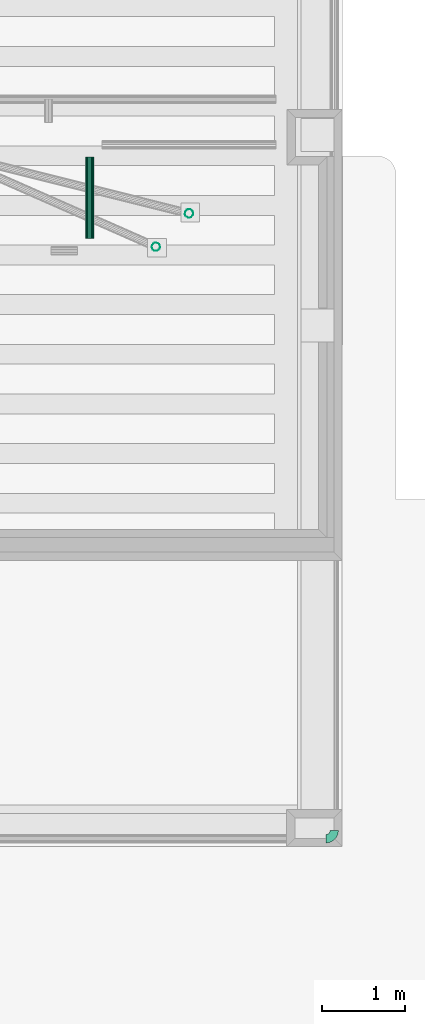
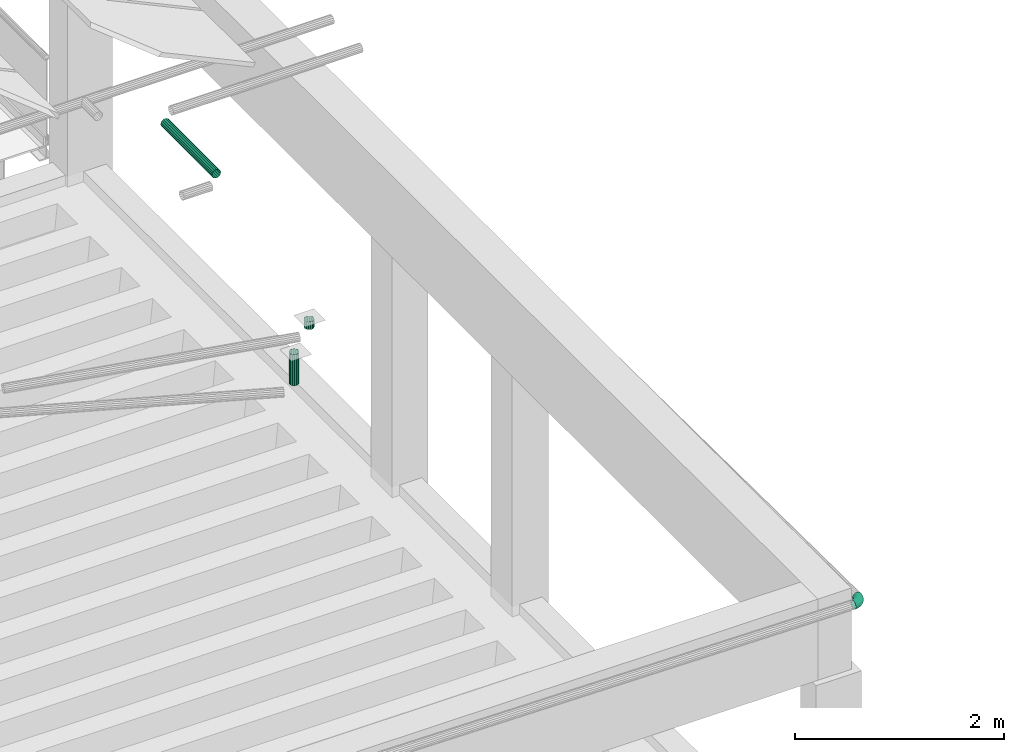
# One storey, part 95 of 108: 3 flow segments, 1 flow fitting.
"""IFC2X3 building model written with IfcOpenShell, lengths in metres."""

from ifc_helpers import new_model, entity, si_unit, converted_unit, derived_unit, money_unit, direction, frame, origin_with_axes, place, context, subcontext, project, spatial, open_shell, faceted_brep, surface_model, material, type_object, element, save


model = new_model("IFC2X3")

# Units and contexts
model_context = context("Model", 3, precision=1e-05, world=origin_with_axes(), true_north=direction((0.0, 1.0)))
body_context = subcontext(model_context, "Body", "Model", "MODEL_VIEW", scale=1.0)
ifc_project = project(units=[si_unit("LENGTHUNIT", "METRE"), si_unit("AREAUNIT", "SQUARE_METRE"), si_unit("VOLUMEUNIT", "CUBIC_METRE"), si_unit("ABSORBEDDOSEUNIT", "GRAY"), si_unit("AMOUNTOFSUBSTANCEUNIT", "MOLE"), si_unit("DOSEEQUIVALENTUNIT", "SIEVERT"), si_unit("ELECTRICCAPACITANCEUNIT", "FARAD"), si_unit("ELECTRICCHARGEUNIT", "COULOMB"), si_unit("ELECTRICCONDUCTANCEUNIT", "SIEMENS"), si_unit("ELECTRICCURRENTUNIT", "AMPERE"), si_unit("ELECTRICRESISTANCEUNIT", "OHM"), si_unit("ELECTRICVOLTAGEUNIT", "VOLT"), si_unit("ENERGYUNIT", "JOULE"), si_unit("FORCEUNIT", "NEWTON"), si_unit("FREQUENCYUNIT", "HERTZ"), si_unit("ILLUMINANCEUNIT", "LUX"), si_unit("INDUCTANCEUNIT", "HENRY"), si_unit("LUMINOUSFLUXUNIT", "LUMEN"), si_unit("LUMINOUSINTENSITYUNIT", "CANDELA"), si_unit("MAGNETICFLUXDENSITYUNIT", "TESLA"), si_unit("MAGNETICFLUXUNIT", "WEBER"), si_unit("MASSUNIT", "GRAM"), converted_unit("PLANEANGLEUNIT", "degree", entity("IfcReal", 0.0174532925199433), si_unit("PLANEANGLEUNIT", "RADIAN"), dimensions=[0, 0, 0, 0, 0, 0, 0]), si_unit("POWERUNIT", "WATT"), si_unit("PRESSUREUNIT", "PASCAL"), si_unit("RADIOACTIVITYUNIT", "BECQUEREL"), si_unit("SOLIDANGLEUNIT", "STERADIAN"), si_unit("THERMODYNAMICTEMPERATUREUNIT", "KELVIN"), si_unit("TIMEUNIT", "SECOND"), derived_unit("ACCELERATIONUNIT", [(si_unit("LENGTHUNIT", "METRE"), 1), (si_unit("TIMEUNIT", "SECOND"), -2)]), derived_unit("ANGULARVELOCITYUNIT", [(converted_unit("PLANEANGLEUNIT", "degree", entity("IfcReal", 0.0174532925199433), si_unit("PLANEANGLEUNIT", "RADIAN"), dimensions=[0, 0, 0, 0, 0, 0, 0]), 1), (si_unit("TIMEUNIT", "SECOND"), -1)]), derived_unit("CURVATUREUNIT", [(converted_unit("PLANEANGLEUNIT", "degree", entity("IfcReal", 0.0174532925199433), si_unit("PLANEANGLEUNIT", "RADIAN"), dimensions=[0, 0, 0, 0, 0, 0, 0]), 1), (si_unit("LENGTHUNIT", "METRE"), -1)]), derived_unit("DYNAMICVISCOSITYUNIT", [(si_unit("PRESSUREUNIT", "PASCAL"), 1), (si_unit("TIMEUNIT", "SECOND"), 1)]), derived_unit("HEATFLUXDENSITYUNIT", [(si_unit("POWERUNIT", "WATT"), 1), (si_unit("LENGTHUNIT", "METRE"), -2)]), derived_unit("HEATINGVALUEUNIT", [(si_unit("ENERGYUNIT", "JOULE"), 1), (si_unit("MASSUNIT", "GRAM"), -1)]), derived_unit("INTEGERCOUNTRATEUNIT", [(si_unit("TIMEUNIT", "SECOND"), -1)]), derived_unit("IONCONCENTRATIONUNIT", [(si_unit("MASSUNIT", "GRAM"), 1), (si_unit("VOLUMEUNIT", "CUBIC_METRE"), -1)]), derived_unit("ISOTHERMALMOISTURECAPACITYUNIT", [(si_unit("VOLUMEUNIT", "CUBIC_METRE"), 1), (si_unit("MASSUNIT", "GRAM"), -1)]), derived_unit("KINEMATICVISCOSITYUNIT", [(si_unit("AREAUNIT", "SQUARE_METRE"), 1), (si_unit("TIMEUNIT", "SECOND"), -1)]), derived_unit("LINEARFORCEUNIT", [(si_unit("FORCEUNIT", "NEWTON"), 1), (si_unit("LENGTHUNIT", "METRE"), -1)]), derived_unit("LINEARMOMENTUNIT", [(si_unit("FORCEUNIT", "NEWTON"), 1), (si_unit("LENGTHUNIT", "METRE"), -1)]), derived_unit("LINEARSTIFFNESSUNIT", [(si_unit("FORCEUNIT", "NEWTON"), 1), (si_unit("LENGTHUNIT", "METRE"), -1)]), derived_unit("LINEARVELOCITYUNIT", [(si_unit("LENGTHUNIT", "METRE"), 1), (si_unit("TIMEUNIT", "SECOND"), -1)]), derived_unit("LUMINOUSINTENSITYDISTRIBUTIONUNIT", [(si_unit("LUMINOUSINTENSITYUNIT", "CANDELA"), 1), (si_unit("LUMINOUSFLUXUNIT", "LUMEN"), -1)]), derived_unit("MASSDENSITYUNIT", [(si_unit("MASSUNIT", "GRAM"), 1), (si_unit("VOLUMEUNIT", "CUBIC_METRE"), -1)]), derived_unit("MASSFLOWRATEUNIT", [(si_unit("MASSUNIT", "GRAM"), 1), (si_unit("TIMEUNIT", "SECOND"), -1)]), derived_unit("MASSPERLENGTHUNIT", [(si_unit("MASSUNIT", "GRAM"), 1), (si_unit("LENGTHUNIT", "METRE"), -1)]), derived_unit("MODULUSOFELASTICITYUNIT", [(si_unit("FORCEUNIT", "NEWTON"), 1), (si_unit("AREAUNIT", "SQUARE_METRE"), -1)]), derived_unit("MODULUSOFLINEARSUBGRADEREACTIONUNIT", [(si_unit("FORCEUNIT", "NEWTON"), 1), (si_unit("LENGTHUNIT", "METRE"), -2)]), derived_unit("MODULUSOFROTATIONALSUBGRADEREACTIONUNIT", [(si_unit("FORCEUNIT", "NEWTON"), 1), (si_unit("LENGTHUNIT", "METRE"), 1)]), derived_unit("MODULUSOFSUBGRADEREACTIONUNIT", [(si_unit("FORCEUNIT", "NEWTON"), 1), (si_unit("VOLUMEUNIT", "CUBIC_METRE"), -1)]), derived_unit("MOISTUREDIFFUSIVITYUNIT", [(si_unit("VOLUMEUNIT", "CUBIC_METRE"), 1), (si_unit("TIMEUNIT", "SECOND"), -1)]), derived_unit("MOLECULARWEIGHTUNIT", [(si_unit("MASSUNIT", "GRAM"), 1), (si_unit("AMOUNTOFSUBSTANCEUNIT", "MOLE"), -1)]), derived_unit("PLANARFORCEUNIT", [(si_unit("FORCEUNIT", "NEWTON"), 1), (si_unit("LENGTHUNIT", "METRE"), -2)]), derived_unit("ROTATIONALFREQUENCYUNIT", [(si_unit("TIMEUNIT", "SECOND"), -1)]), derived_unit("ROTATIONALMASSUNIT", [(si_unit("MASSUNIT", "GRAM"), 1), (si_unit("LENGTHUNIT", "METRE"), 2)]), derived_unit("ROTATIONALSTIFFNESSUNIT", [(si_unit("FORCEUNIT", "NEWTON"), 1), (si_unit("LENGTHUNIT", "METRE"), 1), (converted_unit("PLANEANGLEUNIT", "degree", entity("IfcReal", 0.0174532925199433), si_unit("PLANEANGLEUNIT", "RADIAN"), dimensions=[0, 0, 0, 0, 0, 0, 0]), -1)]), derived_unit("SECTIONAREAINTEGRALUNIT", [(si_unit("LENGTHUNIT", "METRE"), 5)]), derived_unit("SECTIONMODULUSUNIT", [(si_unit("LENGTHUNIT", "METRE"), 3)]), derived_unit("SHEARMODULUSUNIT", [(si_unit("FORCEUNIT", "NEWTON"), 1), (si_unit("AREAUNIT", "SQUARE_METRE"), -1)]), derived_unit("SOUNDPOWERUNIT", [(si_unit("ENERGYUNIT", "JOULE"), 1), (si_unit("TIMEUNIT", "SECOND"), -1)]), derived_unit("SPECIFICHEATCAPACITYUNIT", [(si_unit("FORCEUNIT", "NEWTON"), 1), (si_unit("MASSUNIT", "GRAM"), -1), (si_unit("THERMODYNAMICTEMPERATUREUNIT", "KELVIN"), -1)]), derived_unit("TEMPERATUREGRADIENTUNIT", [(si_unit("THERMODYNAMICTEMPERATUREUNIT", "KELVIN"), 1), (si_unit("LENGTHUNIT", "METRE"), -1)]), derived_unit("THERMALADMITTANCEUNIT", [(si_unit("POWERUNIT", "WATT"), 1), (si_unit("AREAUNIT", "SQUARE_METRE"), -1), (si_unit("THERMODYNAMICTEMPERATUREUNIT", "KELVIN"), -1)]), derived_unit("THERMALCONDUCTANCEUNIT", [(si_unit("POWERUNIT", "WATT"), 1), (si_unit("LENGTHUNIT", "METRE"), -1), (si_unit("THERMODYNAMICTEMPERATUREUNIT", "KELVIN"), -1)]), derived_unit("THERMALEXPANSIONCOEFFICIENTUNIT", [(si_unit("THERMODYNAMICTEMPERATUREUNIT", "KELVIN"), -1)]), derived_unit("THERMALRESISTANCEUNIT", [(si_unit("AREAUNIT", "SQUARE_METRE"), 1), (si_unit("POWERUNIT", "WATT"), -1)]), derived_unit("THERMALTRANSMITTANCEUNIT", [(si_unit("POWERUNIT", "WATT"), 1), (si_unit("AREAUNIT", "SQUARE_METRE"), -1), (si_unit("THERMODYNAMICTEMPERATUREUNIT", "KELVIN"), -1)]), derived_unit("TORQUEUNIT", [(si_unit("FORCEUNIT", "NEWTON"), 1), (si_unit("LENGTHUNIT", "METRE"), 1)]), derived_unit("VAPORPERMEABILITYUNIT", [(si_unit("MASSUNIT", "GRAM"), 1), (si_unit("TIMEUNIT", "SECOND"), -1)]), derived_unit("VOLUMETRICFLOWRATEUNIT", [(si_unit("VOLUMEUNIT", "CUBIC_METRE"), 1), (si_unit("TIMEUNIT", "SECOND"), -1)]), derived_unit("WARPINGCONSTANTUNIT", [(si_unit("LENGTHUNIT", "METRE"), 6)]), derived_unit("WARPINGMOMENTUNIT", [(si_unit("FORCEUNIT", "NEWTON"), 1), (si_unit("LENGTHUNIT", "METRE"), 2)]), money_unit("GBP")], contexts=[model_context])

# Site, building, storey
site_placement = place(None, origin_with_axes())
site = spatial("IfcSite", under=ifc_project, at=site_placement, Name="Site", CompositionType="ELEMENT")
building_placement = place(site_placement, origin_with_axes())
building = spatial("IfcBuilding", under=site, at=building_placement, Name="Building01", CompositionType="ELEMENT")
storey_placement = place(building_placement, origin_with_axes())
storey = spatial("IfcBuildingStorey", under=building, at=storey_placement, Name="GF", CompositionType="ELEMENT", Elevation=0.0)

# Flow segments
ifc_material_1 = material(Name="M_BSUK_Ventilation")
duct_segment_type = type_object("IfcDuctSegmentType", Name="M-RoundDuct", PredefinedType="RIGIDSEGMENT")
flow_segment_1_placement = place(storey_placement, frame((23.93, 8.332559, 17.28), z_axis=(0.0, 0.0, 1.0), x_axis=(0.0, -1.0, 0.0)))
element("IfcFlowSegment", 1, at=flow_segment_1_placement, inside=storey, type_object=duct_segment_type, material=ifc_material_1, Name="M-RoundDuct", ObjectType="M-RoundDuct", context=body_context, shape_type="Brep", body=[
    faceted_brep([(0.982619, 0.0, -0.05), (0.0, 0.0, -0.05), (0.0, 0.019134, -0.046194), (0.982619, 0.019134, -0.046194), (0.0, 0.035355, -0.035355), (0.982619, 0.035355, -0.035355), (0.0, 0.046194, -0.019134), (0.982619, 0.046194, -0.019134), (0.0, 0.05, 0.0), (0.982619, 0.05, 0.0), (0.0, 0.046194, 0.019134), (0.982619, 0.046194, 0.019134), (0.0, 0.035355, 0.035355), (0.982619, 0.035355, 0.035355), (0.0, 0.019134, 0.046194), (0.982619, 0.019134, 0.046194), (0.0, 0.0, 0.05), (0.982619, 0.0, 0.05), (0.0, -0.019134, 0.046194), (0.982619, -0.019134, 0.046194), (0.0, -0.035355, 0.035355), (0.982619, -0.035355, 0.035355), (0.0, -0.046194, 0.019134), (0.982619, -0.046194, 0.019134), (0.0, -0.05, 0.0), (0.982619, -0.05, 0.0), (0.0, -0.046194, -0.019134), (0.982619, -0.046194, -0.019134), (0.0, -0.035355, -0.035355), (0.982619, -0.035355, -0.035355), (0.0, -0.019134, -0.046194), (0.982619, -0.019134, -0.046194)], [[[0, 1, 2, 3]], [[3, 2, 4, 5]], [[5, 4, 6, 7]], [[7, 6, 8, 9]], [[9, 8, 10, 11]], [[11, 10, 12, 13]], [[13, 12, 14, 15]], [[15, 14, 16, 17]], [[17, 16, 18, 19]], [[19, 18, 20, 21]], [[21, 20, 22, 23]], [[23, 22, 24, 25]], [[25, 24, 26, 27]], [[27, 26, 28, 29]], [[29, 28, 30, 31]], [[31, 30, 1, 0]]]),
])
ifc_material_2 = material(Name="M_BSUK_ColdWater")
pipe_segment_type = type_object("IfcPipeSegmentType", Name="M-BmpStraightpipe-DefaultPipe", PredefinedType="RIGIDSEGMENT")
flow_segment_2_placement = place(storey_placement, frame((25.13, 7.651472, 14.98), z_axis=(0.96788929, -0.25137684, 0.0), x_axis=(0.0, 0.0, -1.0)))
element("IfcFlowSegment", 2, at=flow_segment_2_placement, inside=storey, type_object=pipe_segment_type, material=ifc_material_2, Name="M-BmpStraightpipe-DefaultPipe", ObjectType="M-BmpStraightpipe-DefaultPipe", context=body_context, shape_type="Brep", body=[
    faceted_brep([(0.092499, 0.0, -0.05), (0.0, 0.0, -0.05), (0.0, 0.019134, -0.046194), (0.092499, 0.019134, -0.046194), (0.0, 0.035355, -0.035355), (0.092499, 0.035355, -0.035355), (0.0, 0.046194, -0.019134), (0.092499, 0.046194, -0.019134), (0.0, 0.05, 0.0), (0.092499, 0.05, 0.0), (0.0, 0.046194, 0.019134), (0.092499, 0.046194, 0.019134), (0.0, 0.035355, 0.035355), (0.092499, 0.035355, 0.035355), (0.0, 0.019134, 0.046194), (0.092499, 0.019134, 0.046194), (0.0, 0.0, 0.05), (0.092499, 0.0, 0.05), (0.0, -0.019134, 0.046194), (0.092499, -0.019134, 0.046194), (0.0, -0.035355, 0.035355), (0.092499, -0.035355, 0.035355), (0.0, -0.046194, 0.019134), (0.092499, -0.046194, 0.019134), (0.0, -0.05, 0.0), (0.092499, -0.05, 0.0), (0.0, -0.046194, -0.019134), (0.092499, -0.046194, -0.019134), (0.0, -0.035355, -0.035355), (0.092499, -0.035355, -0.035355), (0.0, -0.019134, -0.046194), (0.092499, -0.019134, -0.046194)], [[[0, 1, 2, 3]], [[3, 2, 4, 5]], [[5, 4, 6, 7]], [[7, 6, 8, 9]], [[9, 8, 10, 11]], [[11, 10, 12, 13]], [[13, 12, 14, 15]], [[15, 14, 16, 17]], [[17, 16, 18, 19]], [[19, 18, 20, 21]], [[21, 20, 22, 23]], [[23, 22, 24, 25]], [[25, 24, 26, 27]], [[27, 26, 28, 29]], [[29, 28, 30, 31]], [[31, 30, 1, 0]]]),
])
flow_segment_3_placement = place(storey_placement, frame((24.73, 7.248528, 14.98), z_axis=(0.66617726, -0.74579344, 0.0), x_axis=(0.0, 0.0, -1.0)))
element("IfcFlowSegment", 3, at=flow_segment_3_placement, inside=storey, type_object=pipe_segment_type, material=ifc_material_2, Name="M-BmpStraightpipe-DefaultPipe", ObjectType="M-BmpStraightpipe-DefaultPipe", context=body_context, shape_type="Brep", body=[
    faceted_brep([(0.365312, 0.0, -0.05), (0.0, 0.0, -0.05), (0.0, 0.019134, -0.046194), (0.365312, 0.019134, -0.046194), (0.0, 0.035355, -0.035355), (0.365312, 0.035355, -0.035355), (0.0, 0.046194, -0.019134), (0.365312, 0.046194, -0.019134), (0.0, 0.05, 0.0), (0.365312, 0.05, 0.0), (0.0, 0.046194, 0.019134), (0.365312, 0.046194, 0.019134), (0.0, 0.035355, 0.035355), (0.365312, 0.035355, 0.035355), (0.0, 0.019134, 0.046194), (0.365312, 0.019134, 0.046194), (0.0, 0.0, 0.05), (0.365312, 0.0, 0.05), (0.0, -0.019134, 0.046194), (0.365312, -0.019134, 0.046194), (0.0, -0.035355, 0.035355), (0.365312, -0.035355, 0.035355), (0.0, -0.046194, 0.019134), (0.365312, -0.046194, 0.019134), (0.0, -0.05, 0.0), (0.365312, -0.05, 0.0), (0.0, -0.046194, -0.019134), (0.365312, -0.046194, -0.019134), (0.0, -0.035355, -0.035355), (0.365312, -0.035355, -0.035355), (0.0, -0.019134, -0.046194), (0.365312, -0.019134, -0.046194)], [[[0, 1, 2, 3]], [[3, 2, 4, 5]], [[5, 4, 6, 7]], [[7, 6, 8, 9]], [[9, 8, 10, 11]], [[11, 10, 12, 13]], [[13, 12, 14, 15]], [[15, 14, 16, 17]], [[17, 16, 18, 19]], [[19, 18, 20, 21]], [[21, 20, 22, 23]], [[23, 22, 24, 25]], [[25, 24, 26, 27]], [[27, 26, 28, 29]], [[29, 28, 30, 31]], [[31, 30, 1, 0]]]),
])

# Flow fitting
pipe_fitting_type = type_object("IfcPipeFittingType", Name="M-BmpElbow-DefaultElbow", PredefinedType="BEND")
flow_fitting_placement = place(storey_placement, frame((26.885, 0.19497, 15.640002), z_axis=(1.0, 0.0, 0.0), x_axis=(0.0, 1.0, 0.0)))
element("IfcFlowFitting", 4, at=flow_fitting_placement, inside=storey, type_object=pipe_fitting_type, material=ifc_material_2, Name="M-BmpElbow-DefaultElbow", ObjectType="M-BmpElbow-DefaultElbow", context=body_context, shape_type="SurfaceModel", body=[
    surface_model("IfcShellBasedSurfaceModel", [(-0.008009, -0.01349, -0.048768), (0.0, -0.01349, -0.048146), (0.0, 0.0, -0.05), (-0.007723, 0.0, -0.0506), (-0.015826, -0.01349, -0.05062), (-0.015261, 0.0, -0.052386), (-0.023264, -0.01349, -0.053657), (-0.022432, 0.0, -0.055314), (-0.030143, -0.01349, -0.057807), (-0.029065, 0.0, -0.059315), (-0.036298, -0.01349, -0.062969), (-0.035, 0.0, -0.064293), (-0.041582, -0.01349, -0.06902), (-0.040095, 0.0, -0.070127), (-0.045868, -0.01349, -0.075814), (-0.044228, 0.0, -0.076679), (-0.049054, -0.01349, -0.083189), (-0.0473, 0.0, -0.08379), (-0.051061, -0.01349, -0.090968), (-0.049236, 0.0, -0.091291), (-0.051844, -0.01349, -0.098963), (-0.04999, 0.0, -0.099), (-0.008847, -0.025979, -0.043408), (0.0, -0.025979, -0.042721), (-0.017482, -0.025979, -0.045454), (-0.025697, -0.025979, -0.048809), (-0.033296, -0.025979, -0.053392), (-0.040095, -0.025979, -0.059095), (-0.045932, -0.025979, -0.065779), (-0.050667, -0.025979, -0.073284), (-0.054185, -0.025979, -0.081431), (-0.056403, -0.025979, -0.090023), (-0.057268, -0.025979, -0.098855), (-0.010175, -0.036542, -0.034918), (0.0, -0.036542, -0.034128), (-0.020105, -0.036542, -0.037271), (-0.029553, -0.036542, -0.041129), (-0.038291, -0.036542, -0.0464), (-0.046111, -0.036542, -0.052958), (-0.052823, -0.036542, -0.060645), (-0.058268, -0.036542, -0.069276), (-0.062315, -0.036542, -0.078645), (-0.064865, -0.036542, -0.088526), (-0.065859, -0.036542, -0.098683), (-0.011893, -0.044394, -0.023927), (0.0, -0.044394, -0.023003), (-0.0235, -0.044394, -0.026677), (-0.034544, -0.044394, -0.031187), (-0.044758, -0.044394, -0.037348), (-0.053898, -0.044394, -0.045013), (-0.061744, -0.044394, -0.053998), (-0.068109, -0.044394, -0.064087), (-0.072838, -0.044394, -0.075038), (-0.07582, -0.044394, -0.086588), (-0.076981, -0.044394, -0.09846), (-0.013875, -0.048954, -0.011251), (0.0, -0.048954, -0.010173), (-0.027416, -0.048954, -0.014459), (-0.0403, -0.048954, -0.01972), (-0.052216, -0.048954, -0.026908), (-0.062879, -0.048954, -0.035851), (-0.072033, -0.048954, -0.046333), (-0.079458, -0.048954, -0.058103), (-0.084976, -0.048954, -0.070879), (-0.088454, -0.048954, -0.084353), (-0.089809, -0.048954, -0.098204), (-0.015973, -0.049883, 0.002171), (0.0, -0.049883, 0.003412), (-0.031562, -0.049883, -0.001522), (-0.046394, -0.049883, -0.007579), (-0.060113, -0.049883, -0.015854), (-0.072389, -0.049883, -0.026149), (-0.082927, -0.049883, -0.038216), (-0.091475, -0.049883, -0.051767), (-0.097827, -0.049883, -0.066475), (-0.101831, -0.049883, -0.081987), (-0.103391, -0.049883, -0.097932), (-0.018032, -0.047113, 0.015343), (0.0, -0.047113, 0.016744), (-0.035632, -0.047113, 0.011174), (-0.052376, -0.047113, 0.004336), (-0.067863, -0.047113, -0.005006), (-0.081721, -0.047113, -0.016628), (-0.093618, -0.047113, -0.030251), (-0.103268, -0.047113, -0.045548), (-0.110439, -0.047113, -0.062153), (-0.114959, -0.047113, -0.079665), (-0.116721, -0.047113, -0.097665), (-0.0199, -0.040848, 0.027288), (0.0, -0.040848, 0.028834), (-0.039322, -0.040848, 0.022687), (-0.0578, -0.040848, 0.015141), (-0.074891, -0.040848, 0.004831), (-0.090184, -0.040848, -0.007994), (-0.103313, -0.040848, -0.023028), (-0.113962, -0.040848, -0.039909), (-0.121876, -0.040848, -0.058233), (-0.126865, -0.040848, -0.077559), (-0.128808, -0.040848, -0.097424), (-0.021437, -0.031554, 0.03712), (0.0, -0.031554, 0.038786), (-0.042359, -0.031554, 0.032163), (-0.062264, -0.031554, 0.024035), (-0.080675, -0.031554, 0.012929), (-0.09715, -0.031554, -0.000887), (-0.111293, -0.031554, -0.017083), (-0.122765, -0.031554, -0.035268), (-0.13129, -0.031554, -0.055007), (-0.136664, -0.031554, -0.075826), (-0.138758, -0.031554, -0.097225), (-0.022529, -0.01992, 0.04411), (0.0, -0.01992, 0.045861), (-0.044518, -0.01992, 0.038901), (-0.065438, -0.01992, 0.030358), (-0.084788, -0.01992, 0.018686), (-0.102103, -0.01992, 0.004165), (-0.116966, -0.01992, -0.012856), (-0.129023, -0.01992, -0.031968), (-0.137983, -0.01992, -0.052713), (-0.143631, -0.01992, -0.074593), (-0.145831, -0.01992, -0.097083), (-0.023097, -0.006808, 0.04774), (0.0, -0.006808, 0.049534), (-0.045639, -0.006808, 0.042399), (-0.067087, -0.006808, 0.033641), (-0.086924, -0.006808, 0.021675), (-0.104674, -0.006808, 0.006789), (-0.119912, -0.006808, -0.010661), (-0.132273, -0.006808, -0.030254), (-0.141458, -0.006808, -0.051522), (-0.147248, -0.006808, -0.073953), (-0.149504, -0.006808, -0.09701), (-0.023097, 0.006808, 0.04774), (0.0, 0.006808, 0.049534), (-0.045639, 0.006808, 0.042399), (-0.067087, 0.006808, 0.033641), (-0.086924, 0.006808, 0.021675), (-0.104674, 0.006808, 0.006789), (-0.119912, 0.006808, -0.010661), (-0.132273, 0.006808, -0.030254), (-0.141458, 0.006808, -0.051522), (-0.147248, 0.006808, -0.073953), (-0.149504, 0.006808, -0.09701), (-0.022529, 0.01992, 0.04411), (0.0, 0.01992, 0.045861), (-0.044518, 0.01992, 0.038901), (-0.065438, 0.01992, 0.030358), (-0.084788, 0.01992, 0.018686), (-0.102103, 0.01992, 0.004165), (-0.116966, 0.01992, -0.012856), (-0.129023, 0.01992, -0.031968), (-0.137983, 0.01992, -0.052713), (-0.143631, 0.01992, -0.074593), (-0.145831, 0.01992, -0.097083), (-0.021437, 0.031554, 0.03712), (0.0, 0.031554, 0.038786), (-0.042359, 0.031554, 0.032163), (-0.062264, 0.031554, 0.024035), (-0.080675, 0.031554, 0.012929), (-0.09715, 0.031554, -0.000887), (-0.111293, 0.031554, -0.017083), (-0.122765, 0.031554, -0.035268), (-0.13129, 0.031554, -0.055007), (-0.136664, 0.031554, -0.075826), (-0.138758, 0.031554, -0.097225), (-0.0199, 0.040848, 0.027288), (0.0, 0.040848, 0.028834), (-0.039322, 0.040848, 0.022687), (-0.0578, 0.040848, 0.015141), (-0.074891, 0.040848, 0.004831), (-0.090184, 0.040848, -0.007994), (-0.103313, 0.040848, -0.023028), (-0.113962, 0.040848, -0.039909), (-0.121876, 0.040848, -0.058233), (-0.126865, 0.040848, -0.077559), (-0.128808, 0.040848, -0.097424), (-0.018032, 0.047113, 0.015343), (0.0, 0.047113, 0.016744), (-0.035632, 0.047113, 0.011174), (-0.052376, 0.047113, 0.004336), (-0.067863, 0.047113, -0.005006), (-0.081721, 0.047113, -0.016628), (-0.093618, 0.047113, -0.030251), (-0.103268, 0.047113, -0.045548), (-0.110439, 0.047113, -0.062153), (-0.114959, 0.047113, -0.079665), (-0.116721, 0.047113, -0.097665), (-0.015973, 0.049883, 0.002171), (0.0, 0.049883, 0.003412), (-0.031562, 0.049883, -0.001522), (-0.046394, 0.049883, -0.007579), (-0.060113, 0.049883, -0.015854), (-0.072389, 0.049883, -0.026149), (-0.082927, 0.049883, -0.038216), (-0.091475, 0.049883, -0.051767), (-0.097827, 0.049883, -0.066475), (-0.101831, 0.049883, -0.081987), (-0.103391, 0.049883, -0.097932), (-0.013875, 0.048954, -0.011251), (0.0, 0.048954, -0.010173), (-0.027416, 0.048954, -0.014459), (-0.0403, 0.048954, -0.01972), (-0.052216, 0.048954, -0.026908), (-0.062879, 0.048954, -0.035851), (-0.072033, 0.048954, -0.046333), (-0.079458, 0.048954, -0.058103), (-0.084976, 0.048954, -0.070879), (-0.088454, 0.048954, -0.084353), (-0.089809, 0.048954, -0.098204), (-0.011893, 0.044394, -0.023927), (0.0, 0.044394, -0.023003), (-0.0235, 0.044394, -0.026677), (-0.034544, 0.044394, -0.031187), (-0.044758, 0.044394, -0.037348), (-0.053898, 0.044394, -0.045013), (-0.061744, 0.044394, -0.053998), (-0.068109, 0.044394, -0.064087), (-0.072838, 0.044394, -0.075038), (-0.07582, 0.044394, -0.086588), (-0.076981, 0.044394, -0.09846), (-0.010175, 0.036542, -0.034918), (0.0, 0.036542, -0.034128), (-0.020105, 0.036542, -0.037271), (-0.029553, 0.036542, -0.041129), (-0.038291, 0.036542, -0.0464), (-0.046111, 0.036542, -0.052958), (-0.052823, 0.036542, -0.060645), (-0.058268, 0.036542, -0.069276), (-0.062315, 0.036542, -0.078645), (-0.064865, 0.036542, -0.088526), (-0.065859, 0.036542, -0.098683), (-0.008847, 0.025979, -0.043408), (0.0, 0.025979, -0.042721), (-0.017482, 0.025979, -0.045454), (-0.025697, 0.025979, -0.048809), (-0.033296, 0.025979, -0.053392), (-0.040095, 0.025979, -0.059095), (-0.045932, 0.025979, -0.065779), (-0.050667, 0.025979, -0.073284), (-0.054185, 0.025979, -0.081431), (-0.056403, 0.025979, -0.090023), (-0.057268, 0.025979, -0.098855), (-0.008009, 0.01349, -0.048768), (0.0, 0.01349, -0.048146), (-0.015826, 0.01349, -0.05062), (-0.023264, 0.01349, -0.053657), (-0.030143, 0.01349, -0.057807), (-0.036298, 0.01349, -0.062969), (-0.041582, 0.01349, -0.06902), (-0.045868, 0.01349, -0.075814), (-0.049054, 0.01349, -0.083189), (-0.051061, 0.01349, -0.090968), (-0.051844, 0.01349, -0.098963)], [open_shell([[[0, 1, 2, 3]], [[4, 0, 3, 5]], [[6, 4, 5, 7]], [[8, 6, 7, 9]], [[10, 8, 9, 11]], [[12, 10, 11, 13]], [[14, 12, 13, 15]], [[16, 14, 15, 17]], [[18, 16, 17, 19]], [[20, 18, 19, 21]], [[22, 23, 1, 0]], [[24, 22, 0, 4]], [[25, 24, 4, 6]], [[26, 25, 6, 8]], [[27, 26, 8, 10]], [[28, 27, 10, 12]], [[29, 28, 12, 14]], [[30, 29, 14, 16]], [[31, 30, 16, 18]], [[32, 31, 18, 20]], [[33, 34, 23, 22]], [[35, 33, 22, 24]], [[36, 35, 24, 25]], [[37, 36, 25, 26]], [[38, 37, 26, 27]], [[39, 38, 27, 28]], [[40, 39, 28, 29]], [[41, 40, 29, 30]], [[42, 41, 30, 31]], [[43, 42, 31, 32]], [[44, 45, 34, 33]], [[46, 44, 33, 35]], [[47, 46, 35, 36]], [[48, 47, 36, 37]], [[49, 48, 37, 38]], [[50, 49, 38, 39]], [[51, 50, 39, 40]], [[52, 51, 40, 41]], [[53, 52, 41, 42]], [[54, 53, 42, 43]], [[55, 56, 45, 44]], [[57, 55, 44, 46]], [[58, 57, 46, 47]], [[59, 58, 47, 48]], [[60, 59, 48, 49]], [[61, 60, 49, 50]], [[62, 61, 50, 51]], [[63, 62, 51, 52]], [[64, 63, 52, 53]], [[65, 64, 53, 54]], [[66, 67, 56, 55]], [[68, 66, 55, 57]], [[69, 68, 57, 58]], [[70, 69, 58, 59]], [[71, 70, 59, 60]], [[72, 71, 60, 61]], [[73, 72, 61, 62]], [[74, 73, 62, 63]], [[75, 74, 63, 64]], [[76, 75, 64, 65]], [[77, 78, 67, 66]], [[79, 77, 66, 68]], [[80, 79, 68, 69]], [[81, 80, 69, 70]], [[82, 81, 70, 71]], [[83, 82, 71, 72]], [[84, 83, 72, 73]], [[85, 84, 73, 74]], [[86, 85, 74, 75]], [[87, 86, 75, 76]], [[88, 89, 78, 77]], [[90, 88, 77, 79]], [[91, 90, 79, 80]], [[92, 91, 80, 81]], [[93, 92, 81, 82]], [[94, 93, 82, 83]], [[95, 94, 83, 84]], [[96, 95, 84, 85]], [[97, 96, 85, 86]], [[98, 97, 86, 87]], [[99, 100, 89, 88]], [[101, 99, 88, 90]], [[102, 101, 90, 91]], [[103, 102, 91, 92]], [[104, 103, 92, 93]], [[105, 104, 93, 94]], [[106, 105, 94, 95]], [[107, 106, 95, 96]], [[108, 107, 96, 97]], [[109, 108, 97, 98]], [[110, 111, 100, 99]], [[112, 110, 99, 101]], [[113, 112, 101, 102]], [[114, 113, 102, 103]], [[115, 114, 103, 104]], [[116, 115, 104, 105]], [[117, 116, 105, 106]], [[118, 117, 106, 107]], [[119, 118, 107, 108]], [[120, 119, 108, 109]], [[121, 122, 111, 110]], [[123, 121, 110, 112]], [[124, 123, 112, 113]], [[125, 124, 113, 114]], [[126, 125, 114, 115]], [[127, 126, 115, 116]], [[128, 127, 116, 117]], [[129, 128, 117, 118]], [[130, 129, 118, 119]], [[131, 130, 119, 120]], [[132, 133, 122, 121]], [[134, 132, 121, 123]], [[135, 134, 123, 124]], [[136, 135, 124, 125]], [[137, 136, 125, 126]], [[138, 137, 126, 127]], [[139, 138, 127, 128]], [[140, 139, 128, 129]], [[141, 140, 129, 130]], [[142, 141, 130, 131]], [[143, 144, 133, 132]], [[145, 143, 132, 134]], [[146, 145, 134, 135]], [[147, 146, 135, 136]], [[148, 147, 136, 137]], [[149, 148, 137, 138]], [[150, 149, 138, 139]], [[151, 150, 139, 140]], [[152, 151, 140, 141]], [[153, 152, 141, 142]], [[154, 155, 144, 143]], [[156, 154, 143, 145]], [[157, 156, 145, 146]], [[158, 157, 146, 147]], [[159, 158, 147, 148]], [[160, 159, 148, 149]], [[161, 160, 149, 150]], [[162, 161, 150, 151]], [[163, 162, 151, 152]], [[164, 163, 152, 153]], [[165, 166, 155, 154]], [[167, 165, 154, 156]], [[168, 167, 156, 157]], [[169, 168, 157, 158]], [[170, 169, 158, 159]], [[171, 170, 159, 160]], [[172, 171, 160, 161]], [[173, 172, 161, 162]], [[174, 173, 162, 163]], [[175, 174, 163, 164]], [[176, 177, 166, 165]], [[178, 176, 165, 167]], [[179, 178, 167, 168]], [[180, 179, 168, 169]], [[181, 180, 169, 170]], [[182, 181, 170, 171]], [[183, 182, 171, 172]], [[184, 183, 172, 173]], [[185, 184, 173, 174]], [[186, 185, 174, 175]], [[187, 188, 177, 176]], [[189, 187, 176, 178]], [[190, 189, 178, 179]], [[191, 190, 179, 180]], [[192, 191, 180, 181]], [[193, 192, 181, 182]], [[194, 193, 182, 183]], [[195, 194, 183, 184]], [[196, 195, 184, 185]], [[197, 196, 185, 186]], [[198, 199, 188, 187]], [[200, 198, 187, 189]], [[201, 200, 189, 190]], [[202, 201, 190, 191]], [[203, 202, 191, 192]], [[204, 203, 192, 193]], [[205, 204, 193, 194]], [[206, 205, 194, 195]], [[207, 206, 195, 196]], [[208, 207, 196, 197]], [[209, 210, 199, 198]], [[211, 209, 198, 200]], [[212, 211, 200, 201]], [[213, 212, 201, 202]], [[214, 213, 202, 203]], [[215, 214, 203, 204]], [[216, 215, 204, 205]], [[217, 216, 205, 206]], [[218, 217, 206, 207]], [[219, 218, 207, 208]], [[220, 221, 210, 209]], [[222, 220, 209, 211]], [[223, 222, 211, 212]], [[224, 223, 212, 213]], [[225, 224, 213, 214]], [[226, 225, 214, 215]], [[227, 226, 215, 216]], [[228, 227, 216, 217]], [[229, 228, 217, 218]], [[230, 229, 218, 219]], [[231, 232, 221, 220]], [[233, 231, 220, 222]], [[234, 233, 222, 223]], [[235, 234, 223, 224]], [[236, 235, 224, 225]], [[237, 236, 225, 226]], [[238, 237, 226, 227]], [[239, 238, 227, 228]], [[240, 239, 228, 229]], [[241, 240, 229, 230]], [[242, 243, 232, 231]], [[244, 242, 231, 233]], [[245, 244, 233, 234]], [[246, 245, 234, 235]], [[247, 246, 235, 236]], [[248, 247, 236, 237]], [[249, 248, 237, 238]], [[250, 249, 238, 239]], [[251, 250, 239, 240]], [[252, 251, 240, 241]], [[3, 2, 243, 242]], [[5, 3, 242, 244]], [[7, 5, 244, 245]], [[9, 7, 245, 246]], [[11, 9, 246, 247]], [[13, 11, 247, 248]], [[15, 13, 248, 249]], [[17, 15, 249, 250]], [[19, 17, 250, 251]], [[21, 19, 251, 252]]])]),
])

save(model, "model.ifc")
